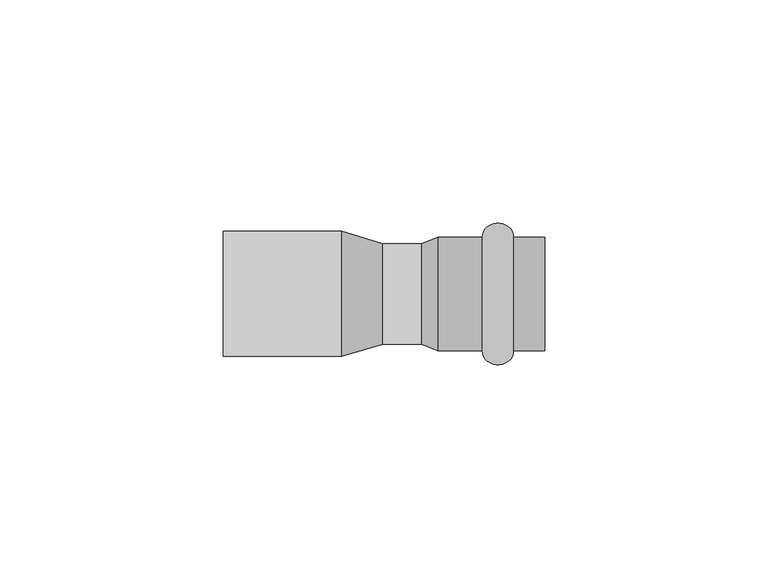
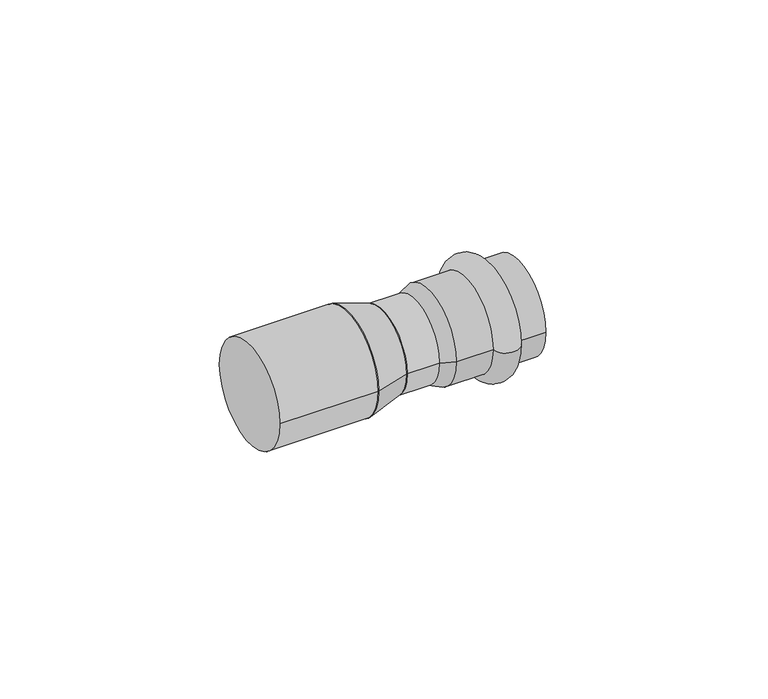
"""IFC4 building model written with IfcOpenShell, lengths in millimetres: pipe fitting geometry, РЕХАУ_Пресс Вставка переходная (переход) : Вставка переходная."""

import ifcopenshell
import ifcopenshell.guid

model = None  # the IFC model being written
_history = None  # IfcOwnerHistory: only IFC2X3 demands one
_inside = {}  # id of a spatial element -> (the spatial element, [elements in it])
_under = {}  # id of a project, library or spatial element -> (it, [spatial elements below it])
_declared = {}  # id of a project -> (the project, [libraries it declares])
_typed = {}  # id of a type object -> (the type object, [elements of that type])
_made_of = {}  # id of a material, layer set ... -> (it, [elements and type objects made of it])


def new_model(schema):
    """Start an empty IFC model of exactly this schema.

    Asked for "IFC4X3", IfcOpenShell would pick the latest addendum, in which some entities
    have other attributes; the version numbers below select the first issue.
    IFC2X3 requires an IfcOwnerHistory on every rooted entity: one is made here for all.
    """
    global model, _history
    if schema == "IFC4X3":
        model = ifcopenshell.file(schema_version=(4, 3, 0, 0))
    else:
        model = ifcopenshell.file(schema=schema)
    _inside.clear()
    _under.clear()
    _declared.clear()
    _typed.clear()
    _made_of.clear()
    _history = None
    if model.schema == "IFC2X3":
        org = make("IfcOrganization", Name="unknown")
        user = make(
            "IfcPersonAndOrganization",
            ThePerson=make("IfcPerson", FamilyName="unknown"),
            TheOrganization=org,
        )
        app = make(
            "IfcApplication",
            ApplicationDeveloper=org,
            Version="unknown",
            ApplicationFullName="unknown",
            ApplicationIdentifier="unknown",
        )
        _history = make(
            "IfcOwnerHistory",
            OwningUser=user,
            OwningApplication=app,
            ChangeAction="ADDED",
            CreationDate=0,
        )
    return model


def make(cls, **values):
    """One entity of the class cls with the attributes given. An attribute that is None is left unset."""
    return model.create_entity(
        cls, **{name: value for name, value in values.items() if value is not None}
    )


def rooted(cls, **values):
    """An entity with a GlobalId (a new one), such as an element, a storey or a relation."""
    return make(cls, GlobalId=ifcopenshell.guid.new(), OwnerHistory=_history, **values)


def si_unit(unit_type, name, prefix=None):
    """IfcSIUnit, for example si_unit("LENGTHUNIT", "METRE", prefix="MILLI")."""
    return make("IfcSIUnit", UnitType=unit_type, Prefix=prefix, Name=name)


def assignment(units):
    """IfcUnitAssignment: the units of a project."""
    return None if units is None else make("IfcUnitAssignment", Units=units)


def point(xyz):
    """IfcCartesianPoint."""
    return None if xyz is None else make("IfcCartesianPoint", Coordinates=xyz)


def direction(xyz):
    """IfcDirection."""
    return None if xyz is None else make("IfcDirection", DirectionRatios=xyz)


def frame(location, z_axis=None, x_axis=None):
    """IfcAxis2Placement3D, a coordinate frame: its origin and axes. An axis left out is left unset."""
    return make(
        "IfcAxis2Placement3D",
        Location=point(location),
        Axis=direction(z_axis),
        RefDirection=direction(x_axis),
    )


def frame_2d(location, x_axis=None):
    """IfcAxis2Placement2D, a coordinate frame in the plane: its origin and x axis."""
    return make(
        "IfcAxis2Placement2D", Location=point(location), RefDirection=direction(x_axis)
    )


def origin():
    """The frame at (0, 0, 0) with its axes left unset."""
    return frame((0.0, 0.0, 0.0))


def origin_2d():
    """The frame at (0, 0) in the plane with its x axis left unset."""
    return frame_2d((0.0, 0.0))


def place(relative_to, where):
    """IfcLocalPlacement: puts the frame where relative to a parent placement (None: the world)."""
    return make(
        "IfcLocalPlacement", PlacementRelTo=relative_to, RelativePlacement=where
    )


def context(
    kind, dimensions, precision=None, world=None, true_north=None, identifier=None
):
    """IfcGeometricRepresentationContext, for example the 3D "Model" context."""
    return make(
        "IfcGeometricRepresentationContext",
        ContextIdentifier=identifier,
        ContextType=kind,
        CoordinateSpaceDimension=dimensions,
        Precision=precision,
        WorldCoordinateSystem=world,
        TrueNorth=true_north,
    )


def project(units=None, contexts=None):
    """IfcProject with its units and contexts."""
    return rooted(
        "IfcProject",
        Name="project",
        RepresentationContexts=contexts,
        UnitsInContext=assignment(units),
    )


def spatial(cls, under=None, at=None, **own):
    """A site, building, storey or space (cls), placed at a placement, below another one or the project."""
    s = rooted(cls, ObjectPlacement=at, **own)
    if under is not None:
        _under.setdefault(under.id(), (under, []))[1].append(s)
    return s


def polyline(points):
    """IfcPolyline through the points."""
    return make("IfcPolyline", Points=[point(p) for p in points])


def circle_curve(where, radius):
    """IfcCircle in the frame where."""
    return make("IfcCircle", Position=where, Radius=radius)


def ellipse_curve(where, semi_axis1, semi_axis2):
    """IfcEllipse in the frame where."""
    return make(
        "IfcEllipse", Position=where, SemiAxis1=semi_axis1, SemiAxis2=semi_axis2
    )


def trimmed(basis, trim1, trim2, sense, master):
    """IfcTrimmedCurve: the piece of a basis curve between two trims."""
    return make(
        "IfcTrimmedCurve",
        BasisCurve=basis,
        Trim1=trim1,
        Trim2=trim2,
        SenseAgreement=sense,
        MasterRepresentation=master,
    )


def segment(curve, same_sense, transition):
    """IfcCompositeCurveSegment."""
    return make(
        "IfcCompositeCurveSegment",
        Transition=transition,
        SameSense=same_sense,
        ParentCurve=curve,
    )


def composite_curve(segments, self_intersect=None):
    """IfcCompositeCurve: segments joined end to end."""
    return make("IfcCompositeCurve", Segments=segments, SelfIntersect=self_intersect)


def outline(outer, holes=None, kind="AREA"):
    """IfcArbitraryClosedProfileDef: a profile drawn as a closed curve; with holes, ...WithVoids."""
    if holes is None:
        return make("IfcArbitraryClosedProfileDef", ProfileType=kind, OuterCurve=outer)
    return make(
        "IfcArbitraryProfileDefWithVoids",
        ProfileType=kind,
        OuterCurve=outer,
        InnerCurves=holes,
    )


def extrude(swept, where, along, depth):
    """IfcExtrudedAreaSolid: the profile swept, set in the frame where, extruded along a direction by depth."""
    return make(
        "IfcExtrudedAreaSolid",
        SweptArea=swept,
        Position=where,
        ExtrudedDirection=direction(along),
        Depth=depth,
    )


def shape(context_of_items, identifier, shape_type, items):
    """IfcShapeRepresentation: the items that make up one representation, for example the "Body"."""
    return make(
        "IfcShapeRepresentation",
        ContextOfItems=context_of_items,
        RepresentationIdentifier=identifier,
        RepresentationType=shape_type,
        Items=items,
    )


def source(mapping_origin, context_of_items, identifier, shape_type, items):
    """IfcRepresentationMap: a shape defined once, which mapped items show again and again."""
    return make(
        "IfcRepresentationMap",
        MappingOrigin=mapping_origin,
        MappedRepresentation=shape(context_of_items, identifier, shape_type, items),
    )


def transform(
    local_origin,
    x_axis=None,
    y_axis=None,
    z_axis=None,
    scale=None,
    scale2=None,
    scale3=None,
    uniform=True,
):
    """IfcCartesianTransformationOperator3D, or its non-uniform kind. x_axis, y_axis, z_axis: its Axis1, 2, 3."""
    if uniform:
        return make(
            "IfcCartesianTransformationOperator3D",
            Axis1=direction(x_axis),
            Axis2=direction(y_axis),
            LocalOrigin=point(local_origin),
            Scale=scale,
            Axis3=direction(z_axis),
        )
    return make(
        "IfcCartesianTransformationOperator3DnonUniform",
        Axis1=direction(x_axis),
        Axis2=direction(y_axis),
        LocalOrigin=point(local_origin),
        Scale=scale,
        Axis3=direction(z_axis),
        Scale2=scale2,
        Scale3=scale3,
    )


def mapped(mapping_source, mapping_target):
    """IfcMappedItem: shows the shape of a source again, moved by a transform."""
    return make(
        "IfcMappedItem", MappingSource=mapping_source, MappingTarget=mapping_target
    )


def made_of(thing, what):
    """Note that an element or type object is made of a material, layer set ...; save() writes the relation."""
    if what is not None:
        _made_of.setdefault(what.id(), (what, []))[1].append(thing)
    return thing


def element(
    cls,
    number,
    at=None,
    inside=None,
    cuts=None,
    type_object=None,
    material=None,
    context=None,
    identifier="Body",
    shape_type=None,
    held_by="IfcProductDefinitionShape",
    body=None,
    shapes=None,
    **own,
):
    """One element of the class cls, such as IfcWall. Its Tag is "e" and its number.

    at: its placement. inside: the storey or other place that contains it. cuts: it is an
    opening in that element (IfcRelVoidsElement). A single representation is given by context,
    identifier, shape_type and body (its items); several are given by shapes. held_by: the class
    of the entity that holds the representations. save() writes the other relations.
    """
    e = rooted(cls, Tag="e%d" % number, ObjectPlacement=at, **own)
    if body is not None:
        shapes = [shape(context, identifier, shape_type, body)]
    if shapes is not None:
        e.Representation = make(held_by, Representations=shapes)
    if inside is not None:
        _inside.setdefault(inside.id(), (inside, []))[1].append(e)
    if cuts is not None:
        rooted(
            "IfcRelVoidsElement", RelatingBuildingElement=cuts, RelatedOpeningElement=e
        )
    if type_object is not None:
        _typed.setdefault(type_object.id(), (type_object, []))[1].append(e)
    return made_of(e, material)


def aggregate(whole, parts):
    """IfcRelAggregates: a whole, such as a stair, and the parts it consists of."""
    return rooted("IfcRelAggregates", RelatingObject=whole, RelatedObjects=parts)


def save(model, path):
    """Write the relations noted so far, then the file.

    IfcRelAggregates (storeys below a building ...), IfcRelContainedInSpatialStructure (elements
    in a storey), IfcRelDefinesByType, IfcRelAssociatesMaterial and IfcRelDeclares: one each for
    every whole, place, type object, material and project.
    """
    for whole, parts in _under.values():
        aggregate(whole, parts)
    for where, things in _inside.values():
        rooted(
            "IfcRelContainedInSpatialStructure",
            RelatedElements=things,
            RelatingStructure=where,
        )
    for kind, things in _typed.values():
        rooted("IfcRelDefinesByType", RelatedObjects=things, RelatingType=kind)
    for what, things in _made_of.values():
        rooted("IfcRelAssociatesMaterial", RelatedObjects=things, RelatingMaterial=what)
    for by, libraries in _declared.values():
        rooted("IfcRelDeclares", RelatingContext=by, RelatedDefinitions=libraries)
    model.write(path)


def plane_surface(at):
    """IfcPlane: the flat surface through the origin of the frame at, square to its z axis."""
    return make("IfcPlane", Position=at)


def cylinder_surface(at, radius):
    """IfcCylindricalSurface: all points at the distance radius from the z axis of the frame at."""
    return make("IfcCylindricalSurface", Position=at, Radius=radius)


def revolved_surface(curve, axis_point, axis_direction):
    """IfcSurfaceOfRevolution: the curve turned about the line through axis_point along axis_direction."""
    return make(
        "IfcSurfaceOfRevolution",
        SweptCurve=make("IfcArbitraryOpenProfileDef", ProfileType="CURVE", Curve=curve),
        AxisPosition=make("IfcAxis1Placement", Location=point(axis_point), Axis=direction(axis_direction)),
    )


def advanced_brep(points, edges, surfaces, faces):
    """IfcAdvancedBrep: a solid bounded by faces that lie on surfaces and meet in shared edges.

    An edge is (start, end): straight between two places in points (the first is 0);
    or (start, end, curve); or (start, end, curve, False) where it runs against its curve.
    A face is (place in surfaces, loops), or (place, loops, False) where it looks against
    its surface's normal. A loop lists edges by number (the first is 1), with a minus sign
    where the edge is run from its end to its start. The first loop is the outer one.
    """
    corners = [point(p) for p in points]
    vertices = [make("IfcVertexPoint", VertexGeometry=c) for c in corners]
    made = []
    for start, end, *more in edges:
        made.append(
            make(
                "IfcEdgeCurve",
                EdgeStart=vertices[start],
                EdgeEnd=vertices[end],
                EdgeGeometry=more[0] if more else make("IfcPolyline", Points=[corners[start], corners[end]]),
                SameSense=more[1] if len(more) > 1 else True,
            )
        )
    hull = []
    for where, loops, *sense in faces:
        bounds = []
        for j, loop in enumerate(loops):
            ring = [make("IfcOrientedEdge", EdgeElement=made[abs(k) - 1], Orientation=k > 0) for k in loop]
            bounds.append(
                make(
                    "IfcFaceOuterBound" if j == 0 else "IfcFaceBound",
                    Bound=make("IfcEdgeLoop", EdgeList=ring),
                    Orientation=True,
                )
            )
        hull.append(make("IfcAdvancedFace", Bounds=bounds, FaceSurface=surfaces[where], SameSense=sense[0] if sense else True))
    return make("IfcAdvancedBrep", Outer=make("IfcClosedShell", CfsFaces=hull))


def pipe_fitting_55db2e21(model_context):
    return source(origin(), model_context, "Body", "SolidModel", [
        advanced_brep(
        [(65.0, 12.75, 0.0), (65.0, -12.75, 0.0), (58.0, -12.75, 0.0), (58.0, 12.75, 0.0)],
        [
            (0, 1, circle_curve(frame((65.0, 0.0, 0.0), z_axis=(1.0, 0.0, 0.0), x_axis=(0.0, -1.0, 0.0)), 12.75)),
            (1, 2),
            (2, 3, circle_curve(frame((58.0, 0.0, 0.0), z_axis=(-1.0, 0.0, 0.0), x_axis=(0.0, -1.0, 0.0)), 12.75)),
            (3, 0),
            (1, 0, circle_curve(frame((65.0, 0.0, 0.0), z_axis=(1.0, 0.0, 0.0), x_axis=(0.0, -1.0, 0.0)), 12.75)),
            (3, 2, circle_curve(frame((58.0, 0.0, 0.0), z_axis=(-1.0, 0.0, 0.0), x_axis=(0.0, -1.0, 0.0)), 12.75)),
            (2, 1, ellipse_curve(frame((61.5, -12.75, 0.0), z_axis=(0.0, 0.0, 1.0), x_axis=(1.0, 0.0, 0.0)), 3.5, 3.1)),
            (0, 3, ellipse_curve(frame((61.5, 12.75, 0.0), z_axis=(0.0, 0.0, 1.0), x_axis=(1.0, 0.0, 0.0)), 3.5, 3.1)),
        ],
        [
            revolved_surface(polyline([(58.0, -12.75, 0.0), (65.0, -12.75, 0.0)]), (45.0, 0.0, 0.0), (-1.0, 0.0, 0.0)),
            revolved_surface(trimmed(ellipse_curve(frame((61.5, -12.75, 0.0), z_axis=(0.0, 0.0, -1.0), x_axis=(1.0, 0.0, 0.0)), 3.5, 3.1), [point((65.0, -12.75, 0.0))], [point((58.0, -12.75, 0.0))], True, "CARTESIAN"), (45.0, 0.0, 0.0), (-1.0, 0.0, 0.0)),
        ],
        [
            (0, [[1, 2, 3, 4]]),
            (0, [[5, -4, 6, -2]]),
            (1, [[-3, 7, -1, 8]]),
            (1, [[-6, -8, -5, -7]]),
        ],
    ),
        advanced_brep(
        [(44.4662215, 11.25, 0.0), (44.4662215, -11.25, 0.0), (48.0, -12.75, 0.0), (48.0, 12.75, 0.0), (72.0, 11.25, 0.0), (72.0, -11.25, 0.0), (72.0, 12.75, 0.0), (72.0, -12.75, 0.0)],
        [
            (0, 1, circle_curve(frame((44.4662215, 0.0, 0.0), z_axis=(1.0, 0.0, 0.0), x_axis=(0.0, -1.0, 0.0)), 11.25)),
            (1, 2),
            (2, 3, circle_curve(frame((48.0, 0.0, 0.0), z_axis=(-1.0, 0.0, 0.0), x_axis=(0.0, -1.0, 0.0)), 12.75)),
            (3, 0),
            (1, 0, circle_curve(frame((44.4662215, 0.0, 0.0), z_axis=(1.0, 0.0, 0.0), x_axis=(0.0, -1.0, 0.0)), 11.25)),
            (3, 2, circle_curve(frame((48.0, 0.0, 0.0), z_axis=(-1.0, 0.0, 0.0), x_axis=(0.0, -1.0, 0.0)), 12.75)),
            (4, 5, circle_curve(frame((72.0, 0.0, 0.0), z_axis=(1.0, 0.0, 0.0), x_axis=(0.0, -1.0, 0.0)), 11.25)),
            (5, 1),
            (0, 4),
            (5, 4, circle_curve(frame((72.0, 0.0, 0.0), z_axis=(1.0, 0.0, 0.0), x_axis=(0.0, -1.0, 0.0)), 11.25)),
            (6, 7, circle_curve(frame((72.0, 0.0, 0.0), z_axis=(1.0, 0.0, 0.0), x_axis=(0.0, -1.0, 0.0)), 12.75)),
            (7, 5),
            (4, 6),
            (7, 6, circle_curve(frame((72.0, 0.0, 0.0), z_axis=(1.0, 0.0, 0.0), x_axis=(0.0, -1.0, 0.0)), 12.75)),
            (2, 7),
            (6, 3),
        ],
        [
            revolved_surface(polyline([(48.0, -12.75, 0.0), (44.4662215, -11.25, 0.0)]), (45.0, 0.0, 0.0), (-1.0, 0.0, 0.0)),
            revolved_surface(polyline([(44.4662215, -11.25, 0.0), (72.0, -11.25, 0.0)]), (45.0, 0.0, 0.0), (-1.0, 0.0, 0.0)),
            plane_surface(frame((72.0, 0.0, 0.0), z_axis=(1.0, 0.0, 0.0), x_axis=(0.0, -1.0, 0.0))),
            cylinder_surface(frame((45.0, 0.0, 0.0), z_axis=(-1.0, 0.0, 0.0), x_axis=(0.0, -1.0, 0.0)), 12.75),
        ],
        [
            (0, [[1, 2, 3, 4]]),
            (0, [[5, -4, 6, -2]]),
            (1, [[7, 8, -1, 9]]),
            (1, [[10, -9, -5, -8]]),
            (2, [[11, 12, -7, 13]]),
            (2, [[14, -13, -10, -12]]),
            (3, [[-3, 15, -11, 16]]),
            (3, [[-6, -16, -14, -15]]),
        ],
    ),
        extrude(outline(composite_curve([segment(trimmed(circle_curve(origin_2d(), 11.25), [point((-11.25, 0.0))], [point((11.25, 0.0))], False, "CARTESIAN"), True, "CONTINUOUS"), segment(trimmed(circle_curve(origin_2d(), 11.25), [point((11.25, 0.0))], [point((-11.25, 0.0))], False, "CARTESIAN"), True, "CONTINUOUS")], self_intersect=False)), frame((35.7, 0.0, 0.0), z_axis=(1.0, 0.0, 0.0), x_axis=(0.0, 1.0, 0.0)), (0.0, 0.0, 1.0), 12.3),
        advanced_brep(
        [(35.7, -11.25, 0.0), (35.7, 11.25, 0.0), (26.5, -14.0, 0.0), (26.5, 14.0, 0.0)],
        [
            (0, 1, circle_curve(frame((35.7, 0.0, 0.0), z_axis=(1.0, 0.0, 0.0), x_axis=(0.0, -1.0, 0.0)), 11.25)),
            (1, 0, circle_curve(frame((35.7, 0.0, 0.0), z_axis=(1.0, 0.0, 0.0), x_axis=(0.0, 1.0, 0.0)), 11.25)),
            (2, 3, circle_curve(frame((26.5, 0.0, 0.0), z_axis=(-1.0, 0.0, 0.0), x_axis=(0.0, 1.0, 0.0)), 14.0)),
            (3, 2, circle_curve(frame((26.5, 0.0, 0.0), z_axis=(-1.0, 0.0, 0.0), x_axis=(0.0, -1.0, 0.0)), 14.0)),
            (3, 1),
            (0, 2),
        ],
        [
            plane_surface(frame((35.7, 0.0, 0.0), z_axis=(1.0, 0.0, 0.0), x_axis=(0.0, 0.0, -1.0))),
            plane_surface(frame((26.5, 0.0, 0.0), z_axis=(-1.0, 0.0, 0.0), x_axis=(0.0, 0.0, -1.0))),
            revolved_surface(polyline([(35.7, -11.249999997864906, 0.0), (26.5, -14.0, 0.0)]), (73.3363636, 0.0, 0.0), (-1.0, 0.0, 0.0)),
            revolved_surface(polyline([(35.7, 11.249999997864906, 0.0), (26.5, 14.0, 0.0)]), (73.3363636, 0.0, 0.0), (-1.0, 0.0, 0.0)),
        ],
        [
            (0, [[1, 2]]),
            (1, [[3, 4]]),
            (2, [[-4, 5, -1, 6]]),
            (3, [[-3, -6, -2, -5]]),
        ],
    ),
        extrude(outline(composite_curve([segment(trimmed(circle_curve(origin_2d(), 14.0), [point((-14.0, 0.0))], [point((14.0, 0.0))], False, "CARTESIAN"), True, "CONTINUOUS"), segment(trimmed(circle_curve(origin_2d(), 14.0), [point((14.0, 0.0))], [point((-14.0, 0.0))], False, "CARTESIAN"), True, "CONTINUOUS")], self_intersect=False)), frame((0.0, 0.0, 0.0), z_axis=(1.0, 0.0, 0.0), x_axis=(0.0, 1.0, 0.0)), (0.0, 0.0, 1.0), 26.5),
    ])


if __name__ == "__main__":
    model = new_model("IFC4")
    model_context = context("Model", 3, world=origin())
    ifc_project = project(units=[si_unit("LENGTHUNIT", "METRE", prefix="MILLI")], contexts=[model_context])
    site = spatial("IfcSite", under=ifc_project)
    building = spatial("IfcBuilding", under=site)
    placement = place(None, origin())
    pipe_fitting_shape = pipe_fitting_55db2e21(model_context)
    element("IfcPipeFitting", 1, ObjectType="РЕХАУ_Пресс Вставка переходная (переход) : Вставка переходная", at=placement, inside=building, context=model_context, shape_type="MappedRepresentation", body=[
        mapped(pipe_fitting_shape, transform((0.0, 0.0, 0.0), x_axis=(1.0, 0.0, 0.0), y_axis=(0.0, 1.0, 0.0), z_axis=(0.0, 0.0, 1.0))),
    ])
    save(model, "model.ifc")
